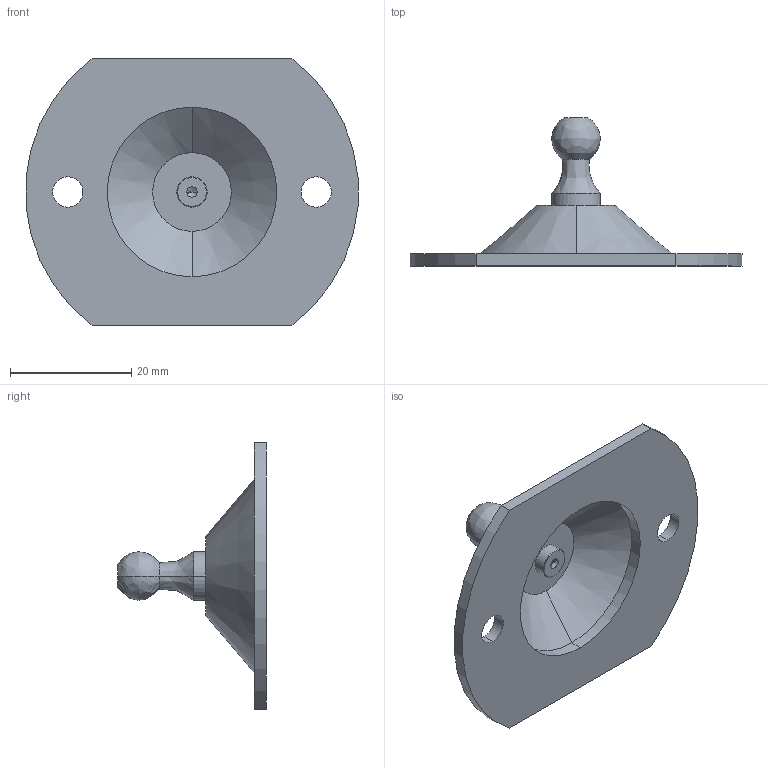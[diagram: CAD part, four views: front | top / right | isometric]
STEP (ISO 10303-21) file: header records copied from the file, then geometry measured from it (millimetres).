
FILE_DESCRIPTION (( 'STEP AP214' ), '1' );
FILE_NAME ('15.BVS-011.STEP', '2017-10-06T12:28:34', ( '' ), ( '' ), 'SwSTEP 2.0', 'SolidWorks 2016', '' );
FILE_SCHEMA (( 'AUTOMOTIVE_DESIGN' ));
Length unit declared in the file: millimetre
Products named in the file (1): 15.BVS-011
Bounding box: 54.8 x 24.5 x 44 mm (x, y, z)
Volume: 4776.3 mm3; surface area: 5413.4 mm2
Topology: 1 solids, 1 shells, 32 faces, 76 edges, 45 vertices
Faces by surface type: cylinder 12, cone 8, plane 8, bspline 4
Entity records: 1036 total; most frequent: CARTESIAN_POINT 280, DIRECTION 160, ORIENTED_EDGE 140, EDGE_CURVE 70, AXIS2_PLACEMENT_3D 67, VERTEX_POINT 45, EDGE_LOOP 41, CIRCLE 38
